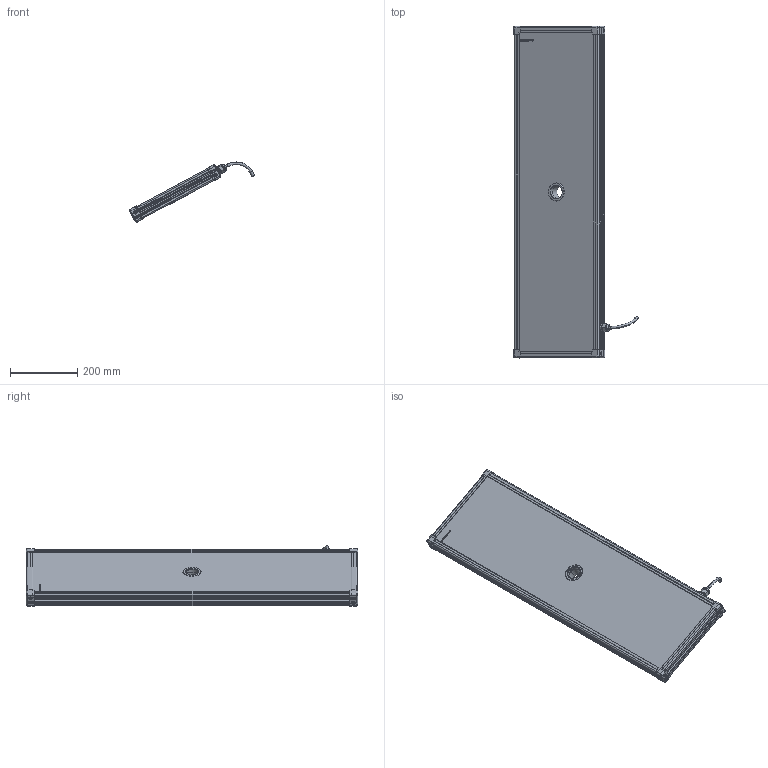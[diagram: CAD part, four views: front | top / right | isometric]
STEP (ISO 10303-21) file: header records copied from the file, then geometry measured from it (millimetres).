
FILE_DESCRIPTION (( 'STEP AP214' ), '1' );
FILE_NAME ('EFFI-FD-250-950-ZZZ-1M12P.STEP', '2021-06-22T07:35:01', ( '' ), ( '' ), 'SwSTEP 2.0', 'SolidWorks 2021', '' );
FILE_SCHEMA (( 'AUTOMOTIVE_DESIGN' ));
Length unit declared in the file: millimetre
Products named in the file (13): Pièce13^EFFI-FD-XXX-YYY-ZZZ (1 connecteur) M12POWER Ø39; assemblage Ø39; 001036; profile X_PERCE; profile Y_PERCE; M12 power_AVEC CABLE D8.1; 000629; petite joue; petite joue + vis; EFFI-FD-250-950-ZZZ-1M12P; 001035; 000590
Assembly tree (19 placements, depth 3):
  EFFI-FD-250-950-ZZZ-1M12P
    profile X_PERCE  x2
    profile Y_PERCE
    profile Y_PERCE
    Pièce13^EFFI-FD-XXX-YYY-ZZZ (1 connecteur) M12POWER Ø39
    petite joue + vis  x4
      petite joue
      000629
    M12 power_AVEC CABLE D8.1
    assemblage Ø39
      001036
      000590  x3
      001035
Bounding box: 370.79 x 989 x 179.04 mm (x, y, z)
Volume: 9824351.2 mm3; surface area: 965186.7 mm2
Topology: 22 solids, 25 shells, 3896 faces, 10381 edges, 6830 vertices
Faces by surface type: plane 2438, cylinder 691, bspline 591, cone 154, torus 22
Entity records: 54477 total; most frequent: CARTESIAN_POINT 22298, ORIENTED_EDGE 6752, DIRECTION 5429, EDGE_CURVE 3378, VECTOR 2403, LINE 2403, VERTEX_POINT 2231, AXIS2_PLACEMENT_3D 1513
